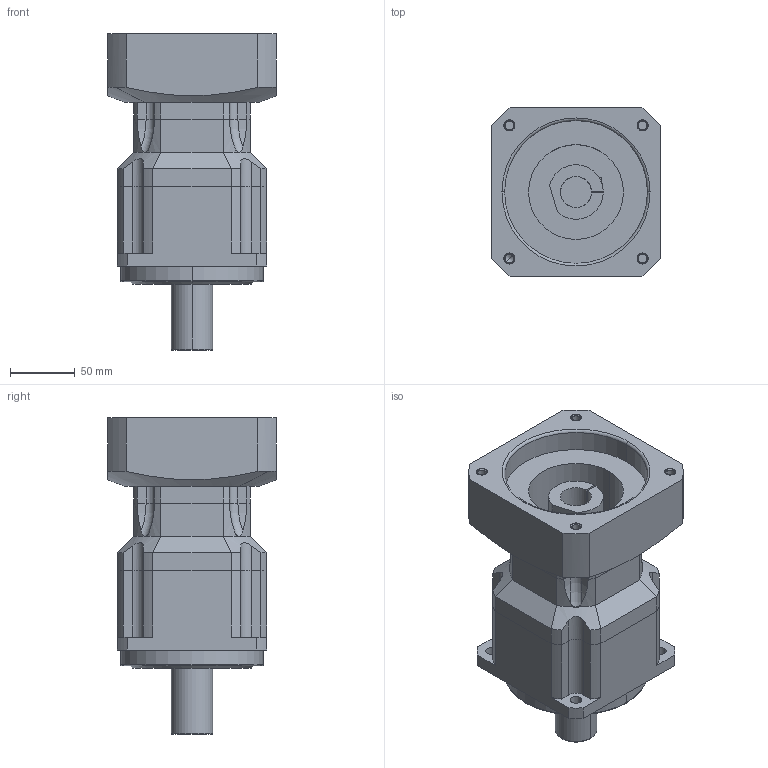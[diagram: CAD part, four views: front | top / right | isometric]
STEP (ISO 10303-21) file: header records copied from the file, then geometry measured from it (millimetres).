
FILE_DESCRIPTION((''),'2;1');
FILE_NAME('AB1152-P0401301004_ASM','2016-03-09T',('d00435'),(''),'PRO/ENGINEER BY PARAMETRIC TECHNOLOGY CORPORATION, 2008410','PRO/ENGINEER BY PARAMETRIC TECHNOLOGY CORPORATION, 2008410','');
FILE_SCHEMA(('CONFIG_CONTROL_DESIGN'));
Length unit declared in the file: millimetre
Products named in the file (4): AB1152; AB1152-1; P0401301004; AB1152-P0401301004_ASM
Assembly tree (3 placements, depth 2):
  AB1152-P0401301004_ASM
    AB1152
    AB1152-1
    P0401301004
Bounding box: 130 x 130 x 244 mm (x, y, z)
Volume: 1917855.3 mm3; surface area: 183707.3 mm2
Topology: 3 solids, 8 shells, 237 faces, 599 edges, 382 vertices
Faces by surface type: cylinder 101, plane 94, cone 26, torus 12, bspline 4
Entity records: 7628 total; most frequent: CARTESIAN_POINT 1646, DIRECTION 1317, ORIENTED_EDGE 1168, EDGE_CURVE 595, AXIS2_PLACEMENT_3D 511, VERTEX_POINT 382, VECTOR 295, LINE 295
